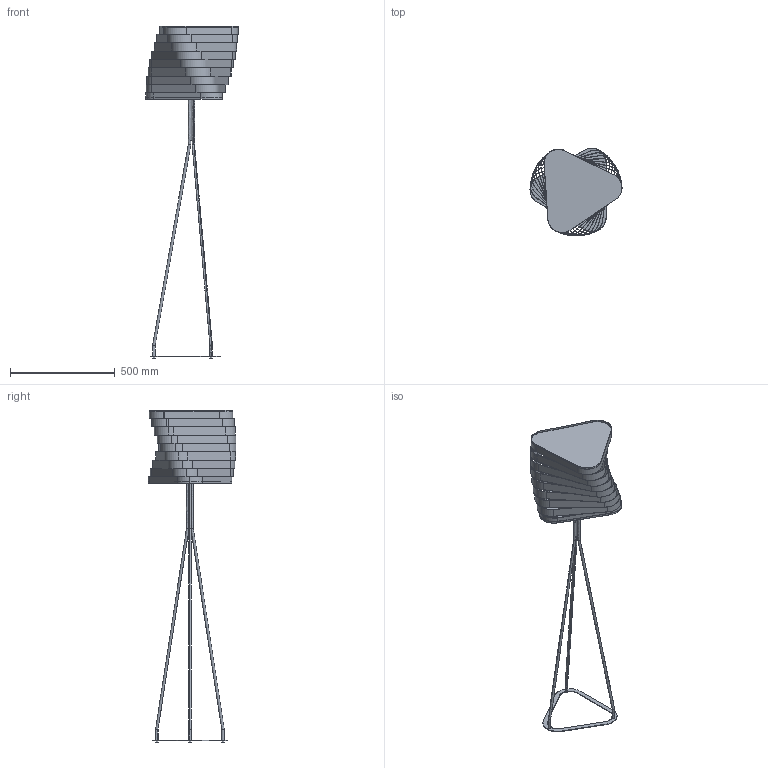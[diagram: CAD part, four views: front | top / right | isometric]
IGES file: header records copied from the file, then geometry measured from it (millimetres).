
Global section: file name: /Users/mac/Desktop/ALMERICH 3D MODELS/62023 Boomerang_Almerich.igs; preprocessor: Trout Lake IGES 012 Jul 15 2015; date: 161129.164044; units: millimetre
Bounding box: 440.29 x 420.29 x 1588 mm (x, y, z)
Surface area: 1460751.3 mm2 (no closed solid volume)
Topology: 0 solids, 0 shells, 297 faces, 3938 edges, 3938 vertices
Faces by surface type: bspline 297
